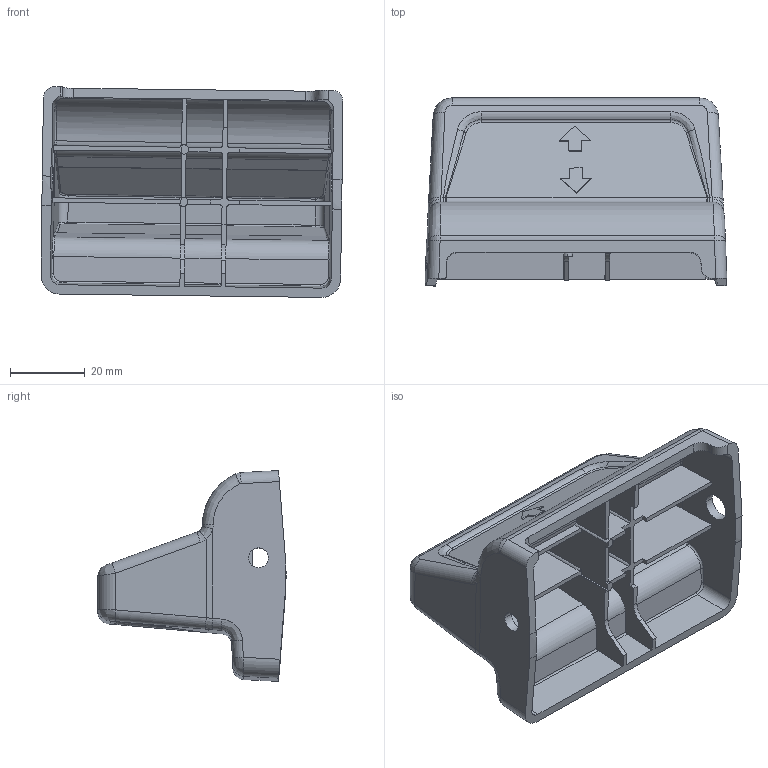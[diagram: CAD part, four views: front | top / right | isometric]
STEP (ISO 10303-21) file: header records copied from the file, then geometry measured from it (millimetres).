
FILE_DESCRIPTION(('CATIA V5 STEP Exchange'),'2;1');
FILE_NAME('G:\够快云库\系统集成开发部\1.部门成员\孙国\座椅控制阀\STP-0521\BPC0010059-LS 升降气阀手柄.stp','2020-05-21T10:21:01+00:00',('none'),('none'),'CATIA Version 5 Release 21 GA (IN-10)','CATIA V5 STEP AP203','none');
FILE_SCHEMA(('CONFIG_CONTROL_DESIGN'));
Length unit declared in the file: millimetre
Products named in the file (1): SQX3000-6806216
Bounding box: 80.75 x 50.37 x 56.44 mm (x, y, z)
Volume: 34119.8 mm3; surface area: 32897.5 mm2
Topology: 1 solids, 1 shells, 309 faces, 826 edges, 519 vertices
Faces by surface type: plane 120, cylinder 119, bspline 70
Entity records: 13771 total; most frequent: CARTESIAN_POINT 7166, ORIENTED_EDGE 1648, DIRECTION 866, EDGE_CURVE 824, VERTEX_POINT 519, VECTOR 445, LINE 445, EDGE_LOOP 315
